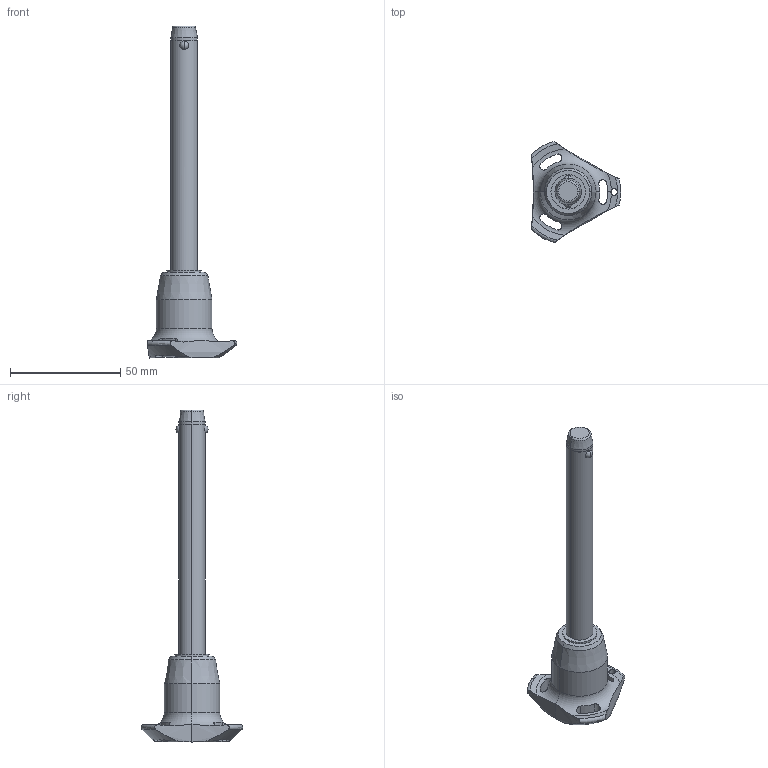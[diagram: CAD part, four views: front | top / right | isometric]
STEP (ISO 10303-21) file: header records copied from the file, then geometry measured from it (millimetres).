
FILE_DESCRIPTION (( 'STEP AP203' ), '1' );
FILE_NAME ('QR1736.M12-100-T.step', '2025-11-13T12:04:29', ( '' ), ( '' ), 'SwSTEP 2.0', 'SolidWorks 2019', '' );
FILE_SCHEMA (( 'CONFIG_CONTROL_DESIGN' ));
Length unit declared in the file: millimetre
Products named in the file (1): QR1736.M12-100-T
Bounding box: 40.5 x 45.88 x 150.3 mm (x, y, z)
Volume: 33083.7 mm3; surface area: 10043.2 mm2
Topology: 1 solids, 1 shells, 68 faces, 183 edges, 116 vertices
Faces by surface type: cylinder 32, cone 14, torus 11, sphere 6, plane 5
Entity records: 2915 total; most frequent: CARTESIAN_POINT 1162, ORIENTED_EDGE 366, DIRECTION 346, EDGE_CURVE 183, AXIS2_PLACEMENT_3D 154, VERTEX_POINT 116, CIRCLE 85, EDGE_LOOP 75
